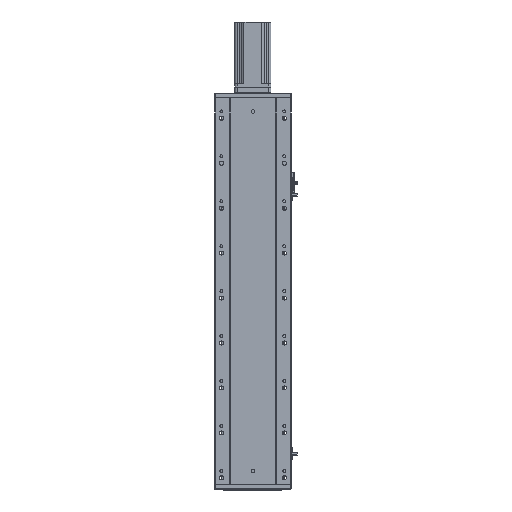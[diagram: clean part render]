
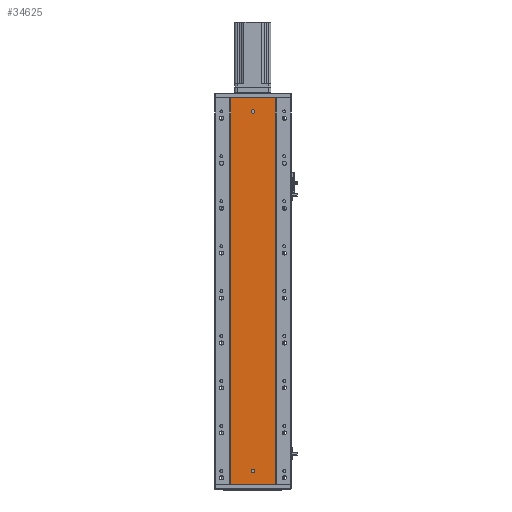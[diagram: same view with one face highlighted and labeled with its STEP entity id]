
A CAD part, front view. The second image highlights one B-rep face of the part: STEP entity #34625.
In plain terms, the highlighted planar face has unit normal (0, -1, 0).
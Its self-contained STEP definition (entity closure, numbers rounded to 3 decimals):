
#759 = DIRECTION ( 'NONE',  ( 0., -1., 0. ) ) ;
#2400 = LINE ( 'NONE', #34964, #15463 ) ;
#3500 = CARTESIAN_POINT ( 'NONE',  ( 136.47, 79.476, 34. ) ) ;
#4372 = EDGE_CURVE ( 'NONE', #48588, #57696, #2400, .T. ) ;
#6907 = CARTESIAN_POINT ( 'NONE',  ( 185.97, 79.476, 0. ) ) ;
#7155 = EDGE_LOOP ( 'NONE', ( #39178, #12934 ) ) ;
#7241 = CARTESIAN_POINT ( 'NONE',  ( 185.97, 79.476, 286.667 ) ) ;
#7717 = CARTESIAN_POINT ( 'NONE',  ( 185.97, 79.476, 573.333 ) ) ;
#8186 = ORIENTED_EDGE ( 'NONE', *, *, #56586, .T. ) ;
#10959 = CARTESIAN_POINT ( 'NONE',  ( 86.97, 79.476, 573.333 ) ) ;
#11277 = CARTESIAN_POINT ( 'NONE',  ( 136.47, 79.476, 830. ) ) ;
#12305 = CARTESIAN_POINT ( 'NONE',  ( 185.97, 79.476, 860. ) ) ;
#12934 = ORIENTED_EDGE ( 'NONE', *, *, #59128, .F. ) ;
#12977 = EDGE_LOOP ( 'NONE', ( #17062, #28294, #16504, #8186 ) ) ;
#13059 = CARTESIAN_POINT ( 'NONE',  ( 185.97, 79.476, 860. ) ) ;
#13856 = CARTESIAN_POINT ( 'NONE',  ( 136.47, 79.476, 834. ) ) ;
#15463 = VECTOR ( 'NONE', #24267, 1000. ) ;
#15705 = DIRECTION ( 'NONE',  ( 0., 1., 0. ) ) ;
#16035 = DIRECTION ( 'NONE',  ( 0., -1., 0. ) ) ;
#16415 = DIRECTION ( 'NONE',  ( 0., -1., 0. ) ) ;
#16504 = ORIENTED_EDGE ( 'NONE', *, *, #4372, .F. ) ;
#16649 = DIRECTION ( 'NONE',  ( 0., 0., -1. ) ) ;
#16752 = DIRECTION ( 'NONE',  ( 0., 0., -1. ) ) ;
#17062 = ORIENTED_EDGE ( 'NONE', *, *, #54337, .T. ) ;
#17199 = VERTEX_POINT ( 'NONE', #6907 ) ;
#18430 = CARTESIAN_POINT ( 'NONE',  ( 136.47, 79.476, 826. ) ) ;
#20435 = VERTEX_POINT ( 'NONE', #46054 ) ;
#24267 = DIRECTION ( 'NONE',  ( 1., 0., 0. ) ) ;
#27104 = PLANE ( 'NONE',  #68080 ) ;
#27578 = DIRECTION ( 'NONE',  ( 0., 0., 1. ) ) ;
#27652 = AXIS2_PLACEMENT_3D ( 'NONE', #55544, #16415, #61174 ) ;
#28294 = ORIENTED_EDGE ( 'NONE', *, *, #28637, .F. ) ;
#28637 = EDGE_CURVE ( 'NONE', #57696, #17199, #66301, .T. ) ;
#29019 = EDGE_LOOP ( 'NONE', ( #54029, #36744 ) ) ;
#29592 = CARTESIAN_POINT ( 'NONE',  ( 185.97, 79.476, 0. ) ) ;
#32396 = VECTOR ( 'NONE', #38918, 1000. ) ;
#33537 = CARTESIAN_POINT ( 'NONE',  ( 86.97, 79.476, 860. ) ) ;
#33637 = EDGE_CURVE ( 'NONE', #42743, #55946, #66442, .T. ) ;
#34625 = ADVANCED_FACE ( 'NONE', ( #63666, #61013, #44405 ), #27104, .F. ) ;
#34964 = CARTESIAN_POINT ( 'NONE',  ( 0., 79.476, 860. ) ) ;
#36744 = ORIENTED_EDGE ( 'NONE', *, *, #66487, .F. ) ;
#38106 = CARTESIAN_POINT ( 'NONE',  ( 136.47, 79.476, 830. ) ) ;
#38729 = CARTESIAN_POINT ( 'NONE',  ( 0., 79.476, 860. ) ) ;
#38918 = DIRECTION ( 'NONE',  ( 1., 0., 0. ) ) ;
#39178 = ORIENTED_EDGE ( 'NONE', *, *, #58246, .F. ) ;
#42743 = VERTEX_POINT ( 'NONE', #68857 ) ;
#43486 = CARTESIAN_POINT ( 'NONE',  ( 86.97, 79.476, 0. ) ) ;
#44405 = FACE_OUTER_BOUND ( 'NONE', #12977, .T. ) ;
#45087 = B_SPLINE_CURVE_WITH_KNOTS ( 'NONE', 3,
 ( #33537, #10959, #55689, #43486 ),
 .UNSPECIFIED., .F., .F.,
 ( 4, 4 ),
 ( 0., 1. ),
 .UNSPECIFIED. ) ;
#46054 = CARTESIAN_POINT ( 'NONE',  ( 86.97, 79.476, 0. ) ) ;
#46184 = DIRECTION ( 'NONE',  ( 0., 0., -1. ) ) ;
#46913 = CIRCLE ( 'NONE', #27652, 4. ) ;
#47085 = VERTEX_POINT ( 'NONE', #18430 ) ;
#48588 = VERTEX_POINT ( 'NONE', #67584 ) ;
#48921 = LINE ( 'NONE', #49692, #32396 ) ;
#49692 = CARTESIAN_POINT ( 'NONE',  ( 0., 79.476, 0. ) ) ;
#53389 = AXIS2_PLACEMENT_3D ( 'NONE', #38106, #16035, #16752 ) ;
#54029 = ORIENTED_EDGE ( 'NONE', *, *, #33637, .F. ) ;
#54337 = EDGE_CURVE ( 'NONE', #20435, #17199, #48921, .T. ) ;
#55368 = CIRCLE ( 'NONE', #53389, 4. ) ;
#55544 = CARTESIAN_POINT ( 'NONE',  ( 136.47, 79.476, 30. ) ) ;
#55689 = CARTESIAN_POINT ( 'NONE',  ( 86.97, 79.476, 286.667 ) ) ;
#55946 = VERTEX_POINT ( 'NONE', #3500 ) ;
#56283 = CIRCLE ( 'NONE', #65070, 4. ) ;
#56586 = EDGE_CURVE ( 'NONE', #48588, #20435, #45087, .T. ) ;
#57696 = VERTEX_POINT ( 'NONE', #12305 ) ;
#58246 = EDGE_CURVE ( 'NONE', #47085, #65820, #56283, .T. ) ;
#59128 = EDGE_CURVE ( 'NONE', #65820, #47085, #55368, .T. ) ;
#61013 = FACE_BOUND ( 'NONE', #29019, .T. ) ;
#61174 = DIRECTION ( 'NONE',  ( 0., 0., -1. ) ) ;
#62549 = CARTESIAN_POINT ( 'NONE',  ( 136.47, 79.476, 30. ) ) ;
#63666 = FACE_BOUND ( 'NONE', #7155, .T. ) ;
#65070 = AXIS2_PLACEMENT_3D ( 'NONE', #11277, #67301, #16649 ) ;
#65820 = VERTEX_POINT ( 'NONE', #13856 ) ;
#66301 = B_SPLINE_CURVE_WITH_KNOTS ( 'NONE', 3,
 ( #13059, #7717, #7241, #29592 ),
 .UNSPECIFIED., .F., .F.,
 ( 4, 4 ),
 ( 0., 1. ),
 .UNSPECIFIED. ) ;
#66442 = CIRCLE ( 'NONE', #69872, 4. ) ;
#66487 = EDGE_CURVE ( 'NONE', #55946, #42743, #46913, .T. ) ;
#67301 = DIRECTION ( 'NONE',  ( 0., -1., 0. ) ) ;
#67584 = CARTESIAN_POINT ( 'NONE',  ( 86.97, 79.476, 860. ) ) ;
#68080 = AXIS2_PLACEMENT_3D ( 'NONE', #38729, #15705, #27578 ) ;
#68857 = CARTESIAN_POINT ( 'NONE',  ( 136.47, 79.476, 26. ) ) ;
#69872 = AXIS2_PLACEMENT_3D ( 'NONE', #62549, #759, #46184 ) ;
